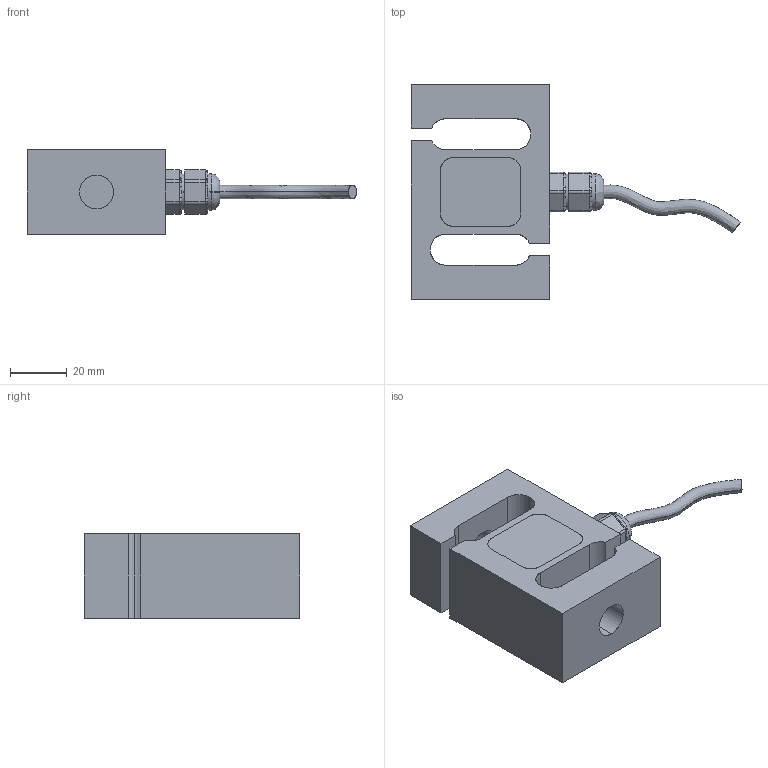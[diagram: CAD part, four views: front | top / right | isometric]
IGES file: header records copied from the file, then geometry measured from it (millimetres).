
Start section: SolidWorks IGES file using analytic representation for surfaces
Global section: file name: C:\Users\nasc01\Desktop\Assemblies for Conversion\Load_Sensor_HISTLB_220LB-2.2KLB\Load_Sensor_HISTLB_220LB-4.4KLB_3D\HI STLB-220LB-2.2KLB.IGS; native system: SolidWorks 2013; preprocessor: SolidWorks 2013; author: nasc01; date: 141014.095512; units: millimetre
Bounding box: 116.53 x 76.2 x 30 mm (x, y, z)
Surface area: 27015.7 mm2 (no closed solid volume)
Topology: 0 solids, 0 shells, 143 faces, 1408 edges, 1408 vertices
Faces by surface type: revolution 73, bspline 70
